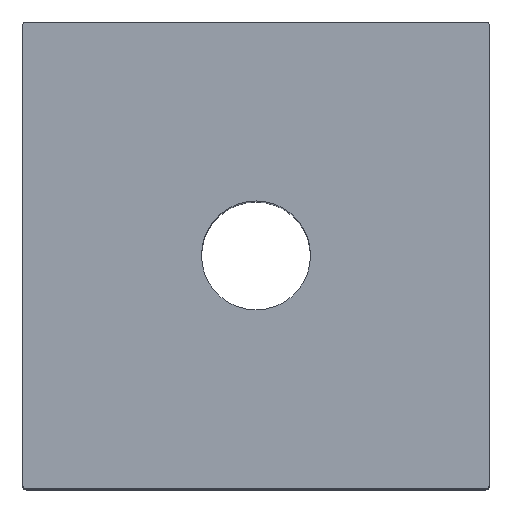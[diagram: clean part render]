
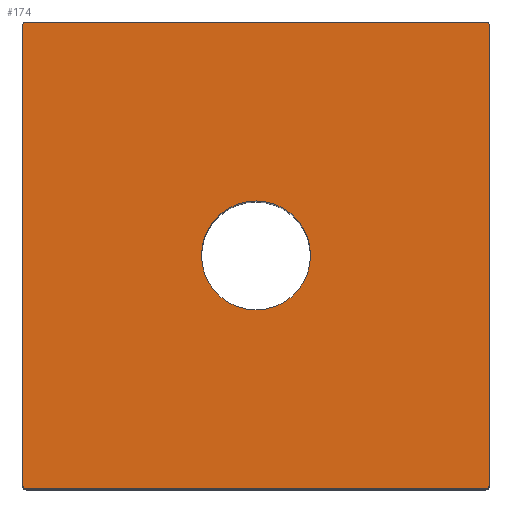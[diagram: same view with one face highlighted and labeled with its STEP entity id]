
A CAD part, top view. The second image highlights one B-rep face of the part: STEP entity #174.
In plain terms, the highlighted planar face has unit normal (0, 0, 1).
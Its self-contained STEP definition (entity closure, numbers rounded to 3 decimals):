
#174=ADVANCED_FACE('',(#213,#214),#202,.T.);
#202=PLANE('',#625);
#213=FACE_BOUND('',#217,.T.);
#214=FACE_BOUND('',#218,.T.);
#217=EDGE_LOOP('',(#323,#324,#325,#326,#327,#328,#329,#330));
#218=EDGE_LOOP('',(#331,#332));
#249=LINE('',#781,#283);
#250=LINE('',#785,#284);
#251=LINE('',#789,#285);
#252=LINE('',#793,#286);
#283=VECTOR('',#670,1.);
#284=VECTOR('',#673,1.);
#285=VECTOR('',#676,1.);
#286=VECTOR('',#679,1.);
#323=ORIENTED_EDGE('',*,*,#531,.T.);
#324=ORIENTED_EDGE('',*,*,#532,.T.);
#325=ORIENTED_EDGE('',*,*,#533,.T.);
#326=ORIENTED_EDGE('',*,*,#534,.T.);
#327=ORIENTED_EDGE('',*,*,#535,.T.);
#328=ORIENTED_EDGE('',*,*,#536,.T.);
#329=ORIENTED_EDGE('',*,*,#537,.T.);
#330=ORIENTED_EDGE('',*,*,#538,.T.);
#331=ORIENTED_EDGE('',*,*,#539,.T.);
#332=ORIENTED_EDGE('',*,*,#540,.T.);
#479=VERTEX_POINT('',#779);
#480=VERTEX_POINT('',#780);
#481=VERTEX_POINT('',#782);
#482=VERTEX_POINT('',#784);
#483=VERTEX_POINT('',#786);
#484=VERTEX_POINT('',#788);
#485=VERTEX_POINT('',#790);
#486=VERTEX_POINT('',#792);
#487=VERTEX_POINT('',#795);
#488=VERTEX_POINT('',#796);
#531=EDGE_CURVE('',#479,#480,#605,.T.);
#532=EDGE_CURVE('',#480,#481,#249,.T.);
#533=EDGE_CURVE('',#481,#482,#606,.T.);
#534=EDGE_CURVE('',#482,#483,#250,.T.);
#535=EDGE_CURVE('',#483,#484,#607,.T.);
#536=EDGE_CURVE('',#484,#485,#251,.T.);
#537=EDGE_CURVE('',#485,#486,#608,.T.);
#538=EDGE_CURVE('',#486,#479,#252,.T.);
#539=EDGE_CURVE('',#487,#488,#609,.T.);
#540=EDGE_CURVE('',#488,#487,#610,.T.);
#605=CIRCLE('',#619,0.5);
#606=CIRCLE('',#620,0.5);
#607=CIRCLE('',#621,0.5);
#608=CIRCLE('',#622,0.5);
#609=CIRCLE('',#623,7.);
#610=CIRCLE('',#624,7.);
#619=AXIS2_PLACEMENT_3D('',#778,#668,#669);
#620=AXIS2_PLACEMENT_3D('',#783,#671,#672);
#621=AXIS2_PLACEMENT_3D('',#787,#674,#675);
#622=AXIS2_PLACEMENT_3D('',#791,#677,#678);
#623=AXIS2_PLACEMENT_3D('',#794,#680,#681);
#624=AXIS2_PLACEMENT_3D('',#797,#682,#683);
#625=AXIS2_PLACEMENT_3D('',#798,#684,#685);
#668=DIRECTION('',(0.,0.,1.));
#669=DIRECTION('',(-0.707,0.707,0.));
#670=DIRECTION('',(0.,1.,0.));
#671=DIRECTION('',(0.,0.,1.));
#672=DIRECTION('',(-0.707,-0.707,0.));
#673=DIRECTION('',(-1.,0.,0.));
#674=DIRECTION('',(0.,0.,1.));
#675=DIRECTION('',(0.707,-0.707,0.));
#676=DIRECTION('',(0.,-1.,0.));
#677=DIRECTION('',(0.,0.,1.));
#678=DIRECTION('',(0.707,0.707,0.));
#679=DIRECTION('',(1.,0.,0.));
#680=DIRECTION('',(0.,0.,-1.));
#681=DIRECTION('',(-1.,0.,0.));
#682=DIRECTION('',(0.,0.,-1.));
#683=DIRECTION('',(1.,0.,0.));
#684=DIRECTION('',(0.,0.,1.));
#685=DIRECTION('',(-1.,0.,0.));
#778=CARTESIAN_POINT('',(29.5,-29.5,82.));
#779=CARTESIAN_POINT('',(29.5,-30.,82.));
#780=CARTESIAN_POINT('',(30.,-29.5,82.));
#781=CARTESIAN_POINT('',(30.,-29.5,82.));
#782=CARTESIAN_POINT('',(30.,29.5,82.));
#783=CARTESIAN_POINT('',(29.5,29.5,82.));
#784=CARTESIAN_POINT('',(29.5,30.,82.));
#785=CARTESIAN_POINT('',(-29.5,30.,82.));
#786=CARTESIAN_POINT('',(-29.5,30.,82.));
#787=CARTESIAN_POINT('',(-29.5,29.5,82.));
#788=CARTESIAN_POINT('',(-30.,29.5,82.));
#789=CARTESIAN_POINT('',(-30.,-29.5,82.));
#790=CARTESIAN_POINT('',(-30.,-29.5,82.));
#791=CARTESIAN_POINT('',(-29.5,-29.5,82.));
#792=CARTESIAN_POINT('',(-29.5,-30.,82.));
#793=CARTESIAN_POINT('',(-29.5,-30.,82.));
#794=CARTESIAN_POINT('',(0.,0.,82.));
#795=CARTESIAN_POINT('',(0.,7.,82.));
#796=CARTESIAN_POINT('',(0.,-7.,82.));
#797=CARTESIAN_POINT('',(0.,0.,82.));
#798=CARTESIAN_POINT('',(29.5,-30.,82.));
